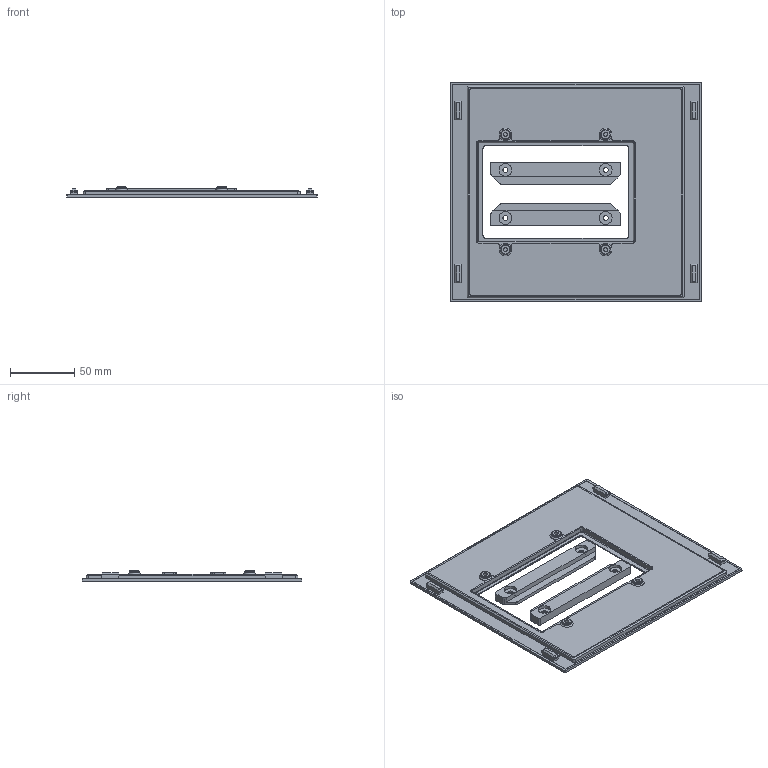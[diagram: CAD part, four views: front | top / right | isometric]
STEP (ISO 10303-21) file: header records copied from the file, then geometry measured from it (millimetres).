
FILE_DESCRIPTION(/* description */ (''),/* implementation_level */ '2;1');
FILE_NAME(/* name */ 'SIDE Panel 5in Display.step',/* time_stamp */ '2024-04-20T13:45:21+10:00',/* author */ (''),/* organization */ (''),/* preprocessor_version */ 'ST-DEVELOPER v20',/* originating_system */ 'Autodesk Translation Framework v12.20.1.177',/* authorisation */ '');
FILE_SCHEMA (('AUTOMOTIVE_DESIGN { 1 0 10303 214 3 1 1 }'));
Length unit declared in the file: millimetre
Products named in the file (1): (Unsaved)
Bounding box: 195.3 x 171.49 x 7.9 mm (x, y, z)
Volume: 131384.6 mm3; surface area: 92979.3 mm2
Topology: 5 solids, 5 shells, 527 faces, 1416 edges, 924 vertices
Faces by surface type: plane 292, cylinder 164, bspline 39, cone 28, torus 4
Full cylindrical faces by diameter (mm): 3.1 x4, 4 x4, 7.8 x4, 8.2 x4, 10 x4
Entity records: 17845 total; most frequent: CARTESIAN_POINT 4636, ORIENTED_EDGE 2820, DIRECTION 2620, EDGE_CURVE 1410, VERTEX_POINT 924, LINE 890, VECTOR 890, AXIS2_PLACEMENT_3D 865
